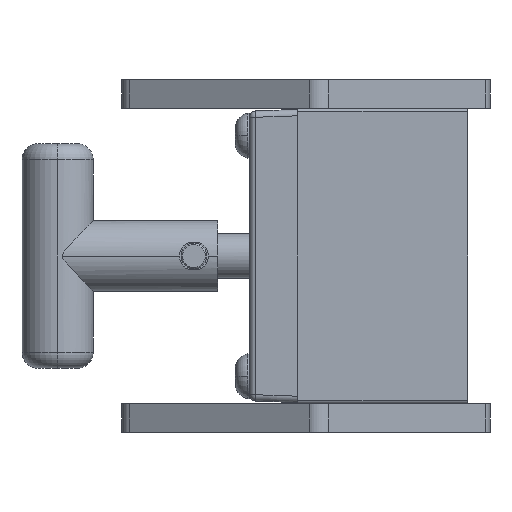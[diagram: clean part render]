
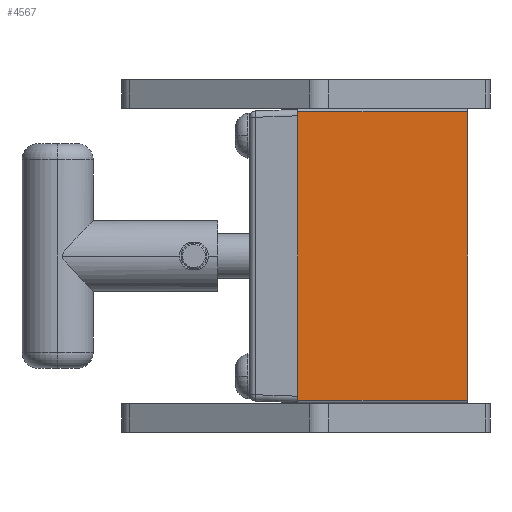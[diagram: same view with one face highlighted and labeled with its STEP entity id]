
A CAD part, left-side view. The second image highlights one B-rep face of the part: STEP entity #4567.
In plain terms, the highlighted planar face has unit normal (-1, 0, 0).
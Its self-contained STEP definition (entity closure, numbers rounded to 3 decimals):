
#57 = EDGE_LOOP ( 'NONE', ( #8826, #7428, #8816, #7429 ) ) ;
#827 = EDGE_CURVE ( 'NONE', #4459, #4467, #8691, .T. ) ;
#1025 = CARTESIAN_POINT ( 'NONE',  ( -36., 52.9, 45. ) ) ;
#1026 = DIRECTION ( 'NONE',  ( 0., -1., 0. ) ) ;
#2104 = CARTESIAN_POINT ( 'NONE',  ( -36., 0.1, -45. ) ) ;
#2107 = DIRECTION ( 'NONE',  ( 0., 1., 0. ) ) ;
#2113 = CARTESIAN_POINT ( 'NONE',  ( -36., 52.9, -45. ) ) ;
#2114 = DIRECTION ( 'NONE',  ( 0., 0., 1. ) ) ;
#2125 = CARTESIAN_POINT ( 'NONE',  ( -36., 0.1, -45. ) ) ;
#2130 = DIRECTION ( 'NONE',  ( 0., 0., 1. ) ) ;
#3457 = AXIS2_PLACEMENT_3D ( 'NONE', #7533, #7536, #7537 ) ;
#4456 = VERTEX_POINT ( 'NONE', #6225 ) ;
#4459 = VERTEX_POINT ( 'NONE', #6231 ) ;
#4464 = VERTEX_POINT ( 'NONE', #6240 ) ;
#4467 = VERTEX_POINT ( 'NONE', #6245 ) ;
#4567 = ADVANCED_FACE ( 'NONE', ( #5460 ), #7529, .T. ) ;
#5460 = FACE_OUTER_BOUND ( 'NONE', #57, .T. ) ;
#6225 = CARTESIAN_POINT ( 'NONE',  ( -36., 52.9, -45. ) ) ;
#6231 = CARTESIAN_POINT ( 'NONE',  ( -36., 52.9, 45. ) ) ;
#6240 = CARTESIAN_POINT ( 'NONE',  ( -36., 0.1, -45. ) ) ;
#6245 = CARTESIAN_POINT ( 'NONE',  ( -36., 0.1, 45. ) ) ;
#6350 = LINE ( 'NONE', #2104, #6373 ) ;
#6373 = VECTOR ( 'NONE', #2107, 1000. ) ;
#6379 = LINE ( 'NONE', #2113, #6380 ) ;
#6380 = VECTOR ( 'NONE', #2114, 1000. ) ;
#6382 = LINE ( 'NONE', #2125, #6393 ) ;
#6393 = VECTOR ( 'NONE', #2130, 1000. ) ;
#7428 = ORIENTED_EDGE ( 'NONE', *, *, #7642, .T. ) ;
#7429 = ORIENTED_EDGE ( 'NONE', *, *, #7634, .F. ) ;
#7529 = PLANE ( 'NONE',  #3457 ) ;
#7533 = CARTESIAN_POINT ( 'NONE',  ( -36., 26.5, 0. ) ) ;
#7536 = DIRECTION ( 'NONE',  ( -1., 0., 0. ) ) ;
#7537 = DIRECTION ( 'NONE',  ( 0., 0., -1. ) ) ;
#7631 = EDGE_CURVE ( 'NONE', #4464, #4456, #6350, .T. ) ;
#7634 = EDGE_CURVE ( 'NONE', #4456, #4459, #6379, .T. ) ;
#7642 = EDGE_CURVE ( 'NONE', #4464, #4467, #6382, .T. ) ;
#8691 = LINE ( 'NONE', #1025, #8692 ) ;
#8692 = VECTOR ( 'NONE', #1026, 1000. ) ;
#8816 = ORIENTED_EDGE ( 'NONE', *, *, #827, .F. ) ;
#8826 = ORIENTED_EDGE ( 'NONE', *, *, #7631, .F. ) ;
